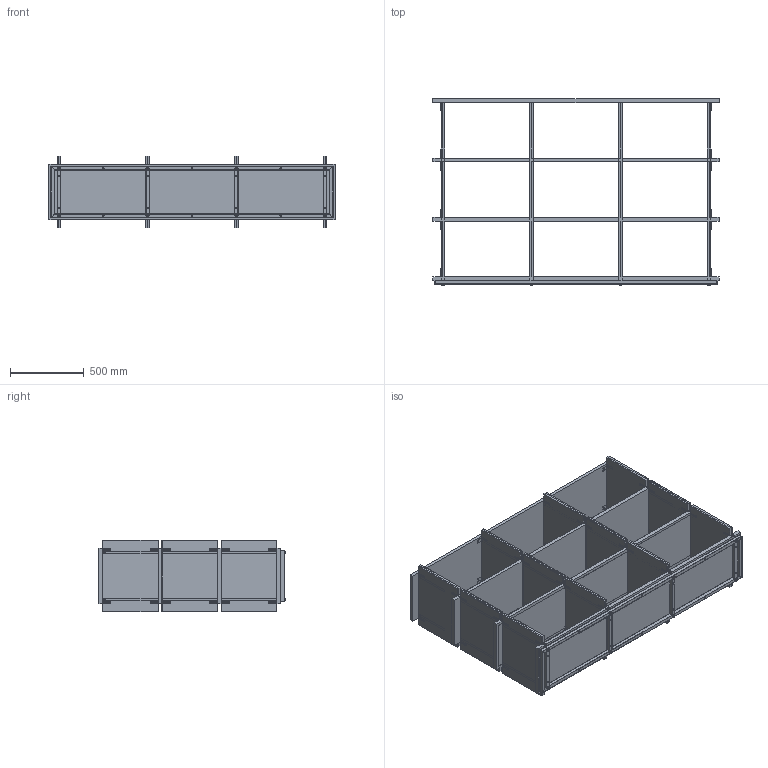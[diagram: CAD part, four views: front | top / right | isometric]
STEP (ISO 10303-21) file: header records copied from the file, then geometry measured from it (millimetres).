
FILE_DESCRIPTION (( 'STEP AP214' ), '1' );
FILE_NAME ('LIBRERIA L.3H.3.STEP', '2024-08-02T09:00:43', ( '' ), ( '' ), 'SwSTEP 2.0', 'SolidWorks 2022', '' );
FILE_SCHEMA (( 'AUTOMOTIVE_DESIGN' ));
Length unit declared in the file: millimetre
Products named in the file (17): PANNELLO SP.12 PER SPALLA; UT181 - Boccola Marmo_per spessore 25; LASTRA PER SPALLA; PIASTRINA PER TOP; TOP LEGNO; PIASTRINA H.25; RIPIANO CENTRALE MARMO SP.25; LIBRERIA L.3H.3; RIPIANO CENTRALE MARMO SP.25_TOP MARMO L.1935; BASE L.1935; SPALLA SP.25; PIASTRINA H.55; TELAIO H.1-H.2-H.3_H3; UT20-FE-02 PIEDINO CON BUSSOLA M8 PER REGOLAZIONE A TERRA; BASE-RIPIANO L.735-L.1935_BASE-RIPIANO L.1935; SPINA DIAM.7.9X26; VITE TCCE M10X20
Assembly tree (132 placements, depth 3):
  LIBRERIA L.3H.3
    TELAIO H.1-H.2-H.3_H3
    BASE L.1935  x2
      BASE-RIPIANO L.735-L.1935_BASE-RIPIANO L.1935
      PIASTRINA H.25
    SPINA DIAM.7.9X26  x32
    SPALLA SP.25  x19
      PANNELLO SP.12 PER SPALLA
      LASTRA PER SPALLA
      PIASTRINA H.55
    UT181 - Boccola Marmo_per spessore 25  x19
    UT20-FE-02 PIEDINO CON BUSSOLA M8 PER REGOLAZIONE A TERRA  x8
    RIPIANO CENTRALE MARMO SP.25
      RIPIANO CENTRALE MARMO SP.25_TOP MARMO L.1935
      PIASTRINA H.25  x8
    PIASTRINA PER TOP  x8
    VITE TCCE M10X20  x11
    TOP LEGNO
Bounding box: 1935 x 1258 x 485 mm (x, y, z)
Volume: 158042447.4 mm3; surface area: 38452591.9 mm2
Topology: 371 solids, 371 shells, 11189 faces, 27820 edges, 17576 vertices
Faces by surface type: plane 6355, cylinder 3678, cone 756, sphere 352, torus 48
Entity records: 35770 total; most frequent: DIRECTION 5973, CARTESIAN_POINT 5441, ORIENTED_EDGE 5038, EDGE_CURVE 2519, AXIS2_PLACEMENT_3D 2268, VERTEX_POINT 1612, LINE 1437, VECTOR 1437
